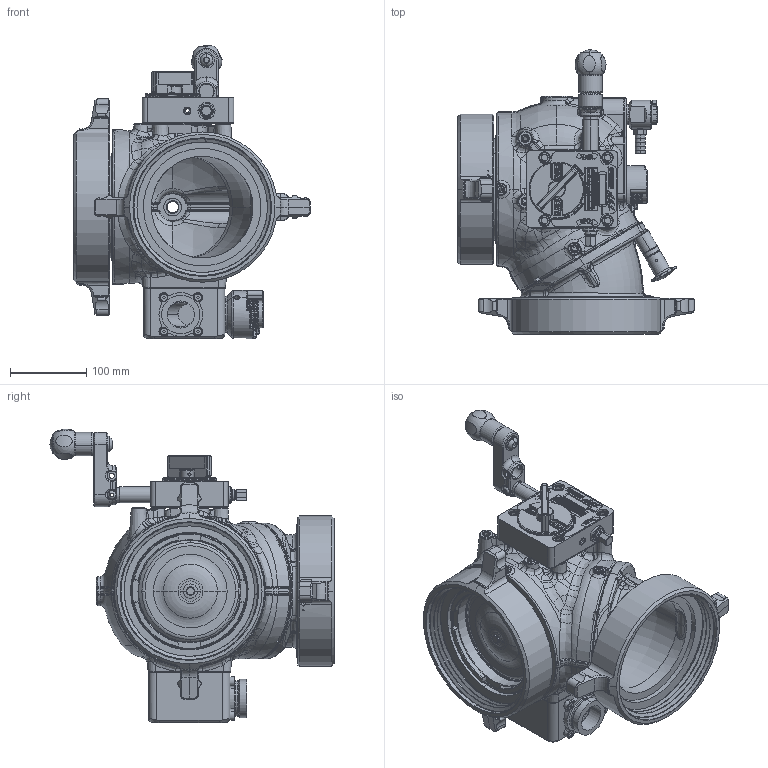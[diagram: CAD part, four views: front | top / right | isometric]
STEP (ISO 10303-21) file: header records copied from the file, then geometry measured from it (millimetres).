
FILE_DESCRIPTION (( 'STEP AP214' ), '1' );
FILE_NAME ('AXD_ASSEMBLY.SLDASM_AXD7HNX-NX-T.step', '2014-09-12T20:57:36', ( '' ), ( '' ), 'SwSTEP 2.0', 'SolidWorks 2014', '' );
FILE_SCHEMA (( 'AUTOMOTIVE_DESIGN' ));
Length unit declared in the file: inch
Products named in the file (1): AXD_ASSEMBLY.SLDASM_AXD7HNX-NX-T
Bounding box: 310.25 x 372.28 x 384.51 mm (x, y, z)
Surface area: 647246.8 mm2 (no closed solid volume)
Topology: 0 solids, 345 shells, 2715 faces, 17504 edges, 14965 vertices
Faces by surface type: plane 987, cylinder 561, bspline 478, cone 404, torus 265, sphere 20
Entity records: 271660 total; most frequent: CARTESIAN_POINT 117690, ORIENTED_EDGE 22744, DIRECTION 19368, EDGE_CURVE 17488, VERTEX_POINT 14963, VECTOR 9654, LINE 9654, B_SPLINE_CURVE_WITH_KNOTS 4920
